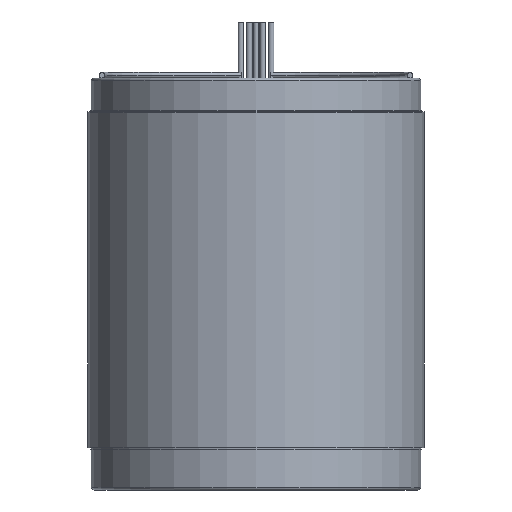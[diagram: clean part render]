
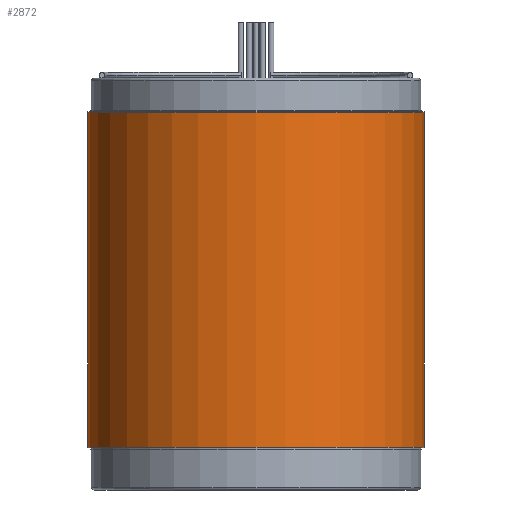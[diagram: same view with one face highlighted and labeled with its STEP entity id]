
A CAD part, front view. The second image highlights one B-rep face of the part: STEP entity #2872.
In plain terms, the highlighted cylindrical face has radius 76.2 mm (diameter 152.4 mm), a partial arc.
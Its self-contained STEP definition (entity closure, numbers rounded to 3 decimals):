
#7 = CARTESIAN_POINT ( 'NONE',  ( -76.2, 0., -75.844 ) ) ;
#28 = CYLINDRICAL_SURFACE ( 'NONE', #3125, 76.2 ) ;
#165 = DIRECTION ( 'NONE',  ( 0., 0., 1. ) ) ;
#283 = ORIENTED_EDGE ( 'NONE', *, *, #1385, .F. ) ;
#332 = VERTEX_POINT ( 'NONE', #1237 ) ;
#613 = ORIENTED_EDGE ( 'NONE', *, *, #3507, .F. ) ;
#816 = LINE ( 'NONE', #2876, #3721 ) ;
#817 = CARTESIAN_POINT ( 'NONE',  ( 0., 0., 75.844 ) ) ;
#1060 = VERTEX_POINT ( 'NONE', #7 ) ;
#1077 = ORIENTED_EDGE ( 'NONE', *, *, #3033, .T. ) ;
#1108 = DIRECTION ( 'NONE',  ( 1., 0., 0. ) ) ;
#1237 = CARTESIAN_POINT ( 'NONE',  ( -76.2, 0., 75.844 ) ) ;
#1353 = CIRCLE ( 'NONE', #3139, 76.2 ) ;
#1385 = EDGE_CURVE ( 'NONE', #3227, #1481, #3820, .T. ) ;
#1481 = VERTEX_POINT ( 'NONE', #2630 ) ;
#1629 = AXIS2_PLACEMENT_3D ( 'NONE', #2415, #2424, #3640 ) ;
#1641 = CIRCLE ( 'NONE', #1629, 76.2 ) ;
#1702 = CARTESIAN_POINT ( 'NONE',  ( 76.2, 0., 75.844 ) ) ;
#1854 = VECTOR ( 'NONE', #3441, 1000. ) ;
#1957 = FACE_OUTER_BOUND ( 'NONE', #3555, .T. ) ;
#2266 = DIRECTION ( 'NONE',  ( 0., 0., -1. ) ) ;
#2309 = DIRECTION ( 'NONE',  ( 0., 0., -1. ) ) ;
#2415 = CARTESIAN_POINT ( 'NONE',  ( 0., 0., -75.844 ) ) ;
#2424 = DIRECTION ( 'NONE',  ( 0., 0., 1. ) ) ;
#2630 = CARTESIAN_POINT ( 'NONE',  ( 76.2, 0., -75.844 ) ) ;
#2872 = ADVANCED_FACE ( 'NONE', ( #1957 ), #28, .T. ) ;
#2876 = CARTESIAN_POINT ( 'NONE',  ( -76.2, 0., 75.844 ) ) ;
#3033 = EDGE_CURVE ( 'NONE', #332, #1060, #816, .T. ) ;
#3086 = ORIENTED_EDGE ( 'NONE', *, *, #3197, .T. ) ;
#3100 = DIRECTION ( 'NONE',  ( -1., 0., 0. ) ) ;
#3115 = CARTESIAN_POINT ( 'NONE',  ( 0., 0., 75.844 ) ) ;
#3125 = AXIS2_PLACEMENT_3D ( 'NONE', #3115, #2266, #3100 ) ;
#3139 = AXIS2_PLACEMENT_3D ( 'NONE', #817, #165, #1108 ) ;
#3197 = EDGE_CURVE ( 'NONE', #1060, #1481, #1641, .T. ) ;
#3227 = VERTEX_POINT ( 'NONE', #3285 ) ;
#3285 = CARTESIAN_POINT ( 'NONE',  ( 76.2, 0., 75.844 ) ) ;
#3441 = DIRECTION ( 'NONE',  ( 0., 0., -1. ) ) ;
#3507 = EDGE_CURVE ( 'NONE', #332, #3227, #1353, .T. ) ;
#3555 = EDGE_LOOP ( 'NONE', ( #283, #613, #1077, #3086 ) ) ;
#3640 = DIRECTION ( 'NONE',  ( 1., 0., 0. ) ) ;
#3721 = VECTOR ( 'NONE', #2309, 1000. ) ;
#3820 = LINE ( 'NONE', #1702, #1854 ) ;
